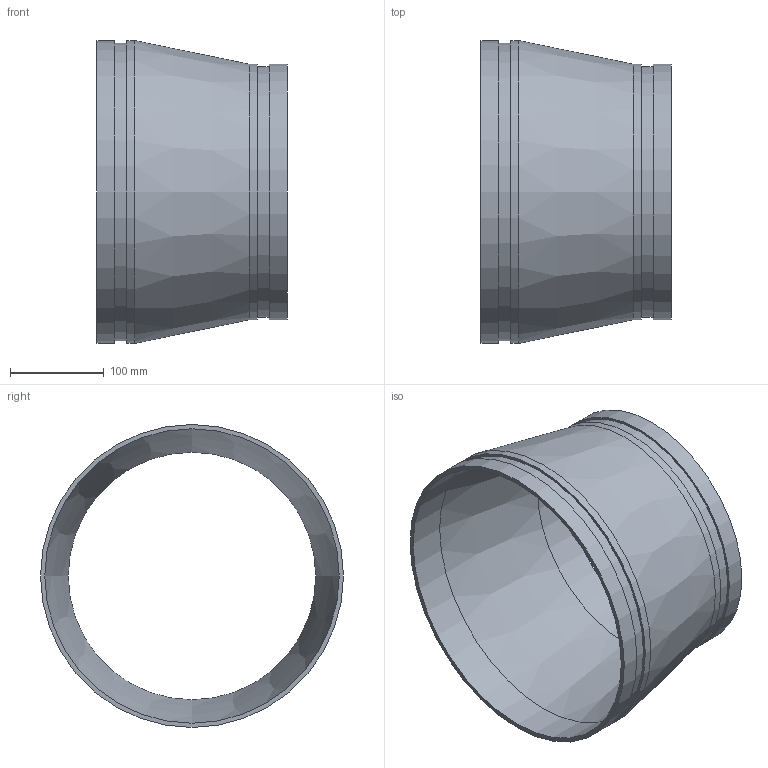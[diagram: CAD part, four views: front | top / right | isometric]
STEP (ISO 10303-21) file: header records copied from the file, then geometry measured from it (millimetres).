
FILE_DESCRIPTION(/* description */ ('VIC REDUCER CONCENTRIC No 450-SS','CAx-IF Rec.Pracs.---Representation and Presentation of Product Manufacturing Information (PMI)---4.0---2014-10-13'),/* implementation_level */ '2;1');
FILE_NAME(/* name */ 'C:\Users\kkamble\AppData\Roaming\Autodesk\ApplicationPlugins\Back Up\Victaulic_SS-OGS_Reducer Concentric_Sched 10S_No 450 SS (OGS)\Victaulic_SS-OGS_Reducer Concentric_Sched 10S_No 450 SS (OGS)_12.0x10.0 (300x250).stp',/* time_stamp */ '2020-09-08T12:34:07+05:00',/* author */ ('CORINNE GRAY'),/* organization */ ('Victaulic'),/* preprocessor_version */ 'ST-DEVELOPER v17.2',/* originating_system */ 'Autodesk Inventor 2019',/* authorisation */ '');
FILE_SCHEMA (('AP242_MANAGED_MODEL_BASED_3D_ENGINEERING_MIM_LF { 1 0 10303 442 1 1 4 }'));
Length unit declared in the file: inch
Products named in the file (1): 450 SS-12.0x10.0
Bounding box: 203.2 x 323.85 x 323.85 mm (x, y, z)
Volume: 762934 mm3; surface area: 397562.5 mm2
Topology: 1 solids, 1 shells, 16 faces, 42 edges, 32 vertices
Faces by surface type: cylinder 8, plane 6, cone 2
Full cylindrical faces by diameter (mm): 264.668 x1, 268.275 x1, 273.05 x2, 314.706 x1, 318.287 x1, 323.85 x2
Entity records: 686 total; most frequent: DIRECTION 134, CARTESIAN_POINT 108, ORIENTED_EDGE 84, AXIS2_PLACEMENT_3D 62, EDGE_CURVE 42, CIRCLE 32, VERTEX_POINT 32, EDGE_LOOP 22
